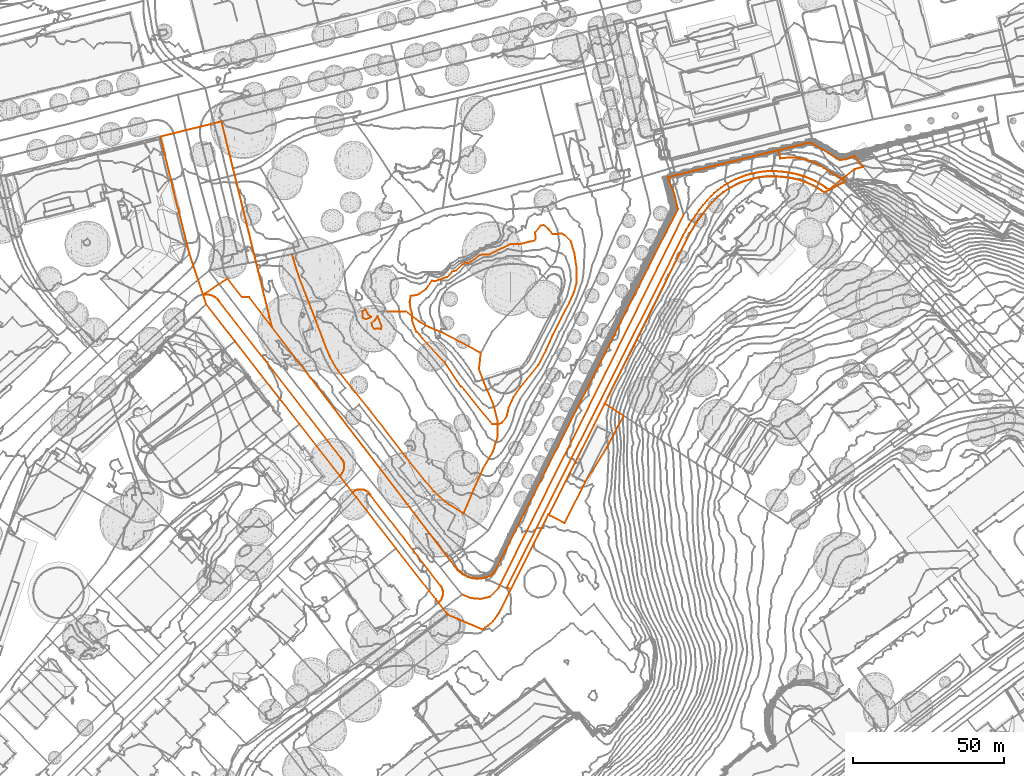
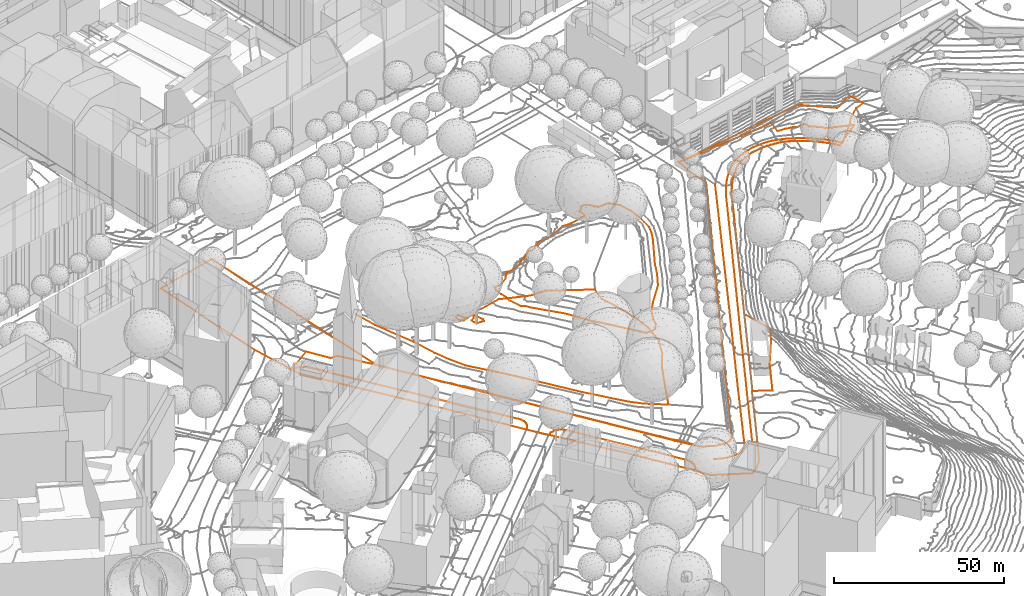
# Not in any storey, part 139 of 494: 11 proxies.
"""IFC2X3 model written with IfcOpenShell, lengths in metres."""

from ifc_helpers import new_model, entity, si_unit, frame, origin_with_axes, place, context, subcontext, project, element, save


model = new_model("IFC2X3")

# Units and contexts
model_context = context("Model", 3, precision=1e-05, world=origin_with_axes())
body_context = subcontext(model_context, "Body", "Model", "MODEL_VIEW")
ifc_project = project(units=[si_unit("AREAUNIT", "SQUARE_METRE"), si_unit("LENGTHUNIT", "METRE")], contexts=[model_context])

# Proxies
proxy_1_placement = place(None, frame((243.7057320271, 174.2087378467, 535.36), z_axis=(0.0, 0.0, 1.0), x_axis=(1.0, 0.0, 0.0)))
element("IfcBuildingElementProxy", 1, at=proxy_1_placement, Name="Road 50", ObjectType="NOTDEFINED", context=body_context, shape_type="GeometricCurveSet", body=[
    entity("IfcGeometricCurveSet", [entity("IfcPolyline", [entity("IfcCartesianPoint", [0.0, 0.0, 0.0]), entity("IfcCartesianPoint", [2.7899999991, -1.1749999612, 0.031]), entity("IfcCartesianPoint", [6.0209999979, -1.4689999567, -0.15]), entity("IfcCartesianPoint", [9.2509999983, -0.7339999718, -0.257]), entity("IfcCartesianPoint", [12.0409999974, 2.2019999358, -0.389]), entity("IfcCartesianPoint", [26.5779999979, 31.4249990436, -2.053]), entity("IfcCartesianPoint", [47.5769999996, 73.5679977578, -2.814]), entity("IfcCartesianPoint", [73.4219999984, 125.8449961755, -3.418])])]),
])
proxy_2_placement = place(None, frame((236.9517320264, 261.1407351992, 545.486), z_axis=(0.0, 0.0, 1.0), x_axis=(1.0, 0.0, 0.0)))
element("IfcBuildingElementProxy", 2, at=proxy_2_placement, Name="Road 84", ObjectType="NOTDEFINED", context=body_context, shape_type="GeometricCurveSet", body=[
    entity("IfcGeometricCurveSet", [entity("IfcPolyline", [entity("IfcCartesianPoint", [12.9210000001, -6.9019997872, 0.096]), entity("IfcCartesianPoint", [0.0, 0.0, 0.0])])]),
])
proxy_3_placement = place(None, frame((187.3177320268, 286.9847344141, 538.828), z_axis=(0.0, 0.0, 1.0), x_axis=(1.0, 0.0, 0.0)))
element("IfcBuildingElementProxy", 3, at=proxy_3_placement, Name="Road 99", ObjectType="NOTDEFINED", context=body_context, shape_type="GeometricCurveSet", body=[
    entity("IfcGeometricCurveSet", [entity("IfcPolyline", [entity("IfcCartesianPoint", [0.0, 0.0, 0.0]), entity("IfcCartesianPoint", [2.3499999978, -7.6359997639, -0.15]), entity("IfcCartesianPoint", [7.6359999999, -21.1449993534, 0.169]), entity("IfcCartesianPoint", [10.425999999, -28.6349991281, -0.223]), entity("IfcCartesianPoint", [12.4809999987, -33.7739989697, -0.136]), entity("IfcCartesianPoint", [15.2709999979, -38.6199988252, -0.385]), entity("IfcCartesianPoint", [25.4039999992, -51.1009984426, -0.277]), entity("IfcCartesianPoint", [38.0329999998, -67.5479979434, -0.38]), entity("IfcCartesianPoint", [47.1380000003, -78.7089976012, -0.171]), entity("IfcCartesianPoint", [50.5139999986, -81.9389975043, -0.158]), entity("IfcCartesianPoint", [56.8289999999, -85.903997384, -0.326])])]),
])
proxy_4_placement = place(None, frame((244.1467320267, 201.0807370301, 538.502), z_axis=(0.0, 0.0, 1.0), x_axis=(1.0, 0.0, 0.0)))
element("IfcBuildingElementProxy", 4, at=proxy_4_placement, Name="Road 104", ObjectType="NOTDEFINED", context=body_context, shape_type="GeometricCurveSet", body=[
    entity("IfcGeometricCurveSet", [entity("IfcPolyline", [entity("IfcCartesianPoint", [0.0, 0.0, 0.0]), entity("IfcCartesianPoint", [3.3770000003, 7.9299997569, 0.983]), entity("IfcCartesianPoint", [6.4609999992, 14.8309995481, 1.684]), entity("IfcCartesianPoint", [9.6909999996, 20.4109993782, 2.629]), entity("IfcCartesianPoint", [11.305999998, 25.2579992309, 3.658]), entity("IfcCartesianPoint", [11.305999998, 30.8379990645, 4.559]), entity("IfcCartesianPoint", [9.8389999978, 36.4179988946, 5.583]), entity("IfcCartesianPoint", [6.9010000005, 43.1729986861, 6.843]), entity("IfcCartesianPoint", [5.1400000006, 47.8709985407, 7.022]), entity("IfcCartesianPoint", [5.7259999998, 53.1579983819, 7.08])])]),
])
proxy_5_placement = place(None, frame((219.3587320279, 268.0417349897, 541.019), z_axis=(0.0, 0.0, 1.0), x_axis=(1.0, 0.0, 0.0)))
element("IfcBuildingElementProxy", 5, at=proxy_5_placement, Name="Road 139", ObjectType="NOTDEFINED", context=body_context, shape_type="GeometricCurveSet", body=[
    entity("IfcGeometricCurveSet", [entity("IfcPolyline", [entity("IfcCartesianPoint", [17.5929999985, -6.9009997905, 4.467]), entity("IfcCartesianPoint", [13.3339999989, -5.2859998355, 3.229]), entity("IfcCartesianPoint", [10.1030000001, -3.3769998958, 2.621]), entity("IfcCartesianPoint", [5.6979999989, 5.6e-09, 1.386]), entity("IfcCartesianPoint", [0.0, 0.0, 0.0])])]),
])
proxy_6_placement = place(None, frame((157.8477320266, 273.5947160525, 537.2889121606), z_axis=(0.0, 0.0, 1.0), x_axis=(1.0, 0.0, 0.0)))
element("IfcBuildingElementProxy", 6, at=proxy_6_placement, Name="Roads Outline 91", ObjectType="NOTDEFINED", context=body_context, shape_type="GeometricCurveSet", body=[
    entity("IfcGeometricCurveSet", [entity("IfcPolyline", [entity("IfcCartesianPoint", [0.0, 0.0, 0.0]), entity("IfcCartesianPoint", [8.148, 5.3159999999, 0.4038729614]), entity("IfcCartesianPoint", [12.909, -0.7910000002, 0.1333250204]), entity("IfcCartesianPoint", [15.301, -0.8630000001, 0.105246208]), entity("IfcCartesianPoint", [22.8640000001, -10.7210000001, 0.165489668]), entity("IfcCartesianPoint", [80.6310000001, -86.3450000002, -1.4383581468]), entity("IfcCartesianPoint", [83.4080000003, -89.9810000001, -1.3573259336]), entity("IfcCartesianPoint", [83.4190000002, -89.9950000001, -1.3562381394]), entity("IfcCartesianPoint", [83.8190000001, -90.5190000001, -1.3418526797]), entity("IfcCartesianPoint", [84.2579999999, -91.0530000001, -1.3515721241]), entity("IfcCartesianPoint", [84.736, -91.5520000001, -1.3715548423]), entity("IfcCartesianPoint", [85.2510000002, -92.013, -1.6272176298]), entity("IfcCartesianPoint", [85.7990000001, -92.4340000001, -1.4826048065]), entity("IfcCartesianPoint", [86.3770000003, -92.8120000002, -1.5678391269]), entity("IfcCartesianPoint", [86.9709999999, -93.1400000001, -1.5147409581]), entity("IfcCartesianPoint", [87.5870000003, -93.4230000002, -1.4721215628]), entity("IfcCartesianPoint", [88.2220000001, -93.6600000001, -1.5433086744]), entity("IfcCartesianPoint", [88.8730000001, -93.8490000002, -1.6738948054]), entity("IfcCartesianPoint", [89.628, -94.0050000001, -1.73901347]), entity("IfcCartesianPoint", [90.3930000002, -94.0960000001, -1.7770938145]), entity("IfcCartesianPoint", [91.162, -94.1230000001, -1.8366152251]), entity("IfcCartesianPoint", [91.932, -94.0850000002, -1.9610073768]), entity("IfcCartesianPoint", [92.6950000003, -93.9820000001, -2.1313607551]), entity("IfcCartesianPoint", [93.4480000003, -93.8160000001, -2.183151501]), entity("IfcCartesianPoint", [94.1830000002, -93.5870000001, -2.1622160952]), entity("IfcCartesianPoint", [94.8970000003, -93.297, -2.2725958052]), entity("IfcCartesianPoint", [95.3560000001, -93.0490000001, -2.3959886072]), entity("IfcCartesianPoint", [95.7779999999, -92.7410000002, -2.363310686]), entity("IfcCartesianPoint", [96.1550000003, -92.3800000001, -2.3866608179]), entity("IfcCartesianPoint", [96.4790000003, -91.9710000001, -2.4617111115]), entity("IfcCartesianPoint", [96.7460000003, -91.5220000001, -2.4244699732]), entity("IfcCartesianPoint", [157.3689999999, 28.4129999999, -5.1769479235]), entity("IfcCartesianPoint", [155.8220000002, 34.541, -4.7274218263]), entity("IfcCartesianPoint", [153.9820000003, 38.879, -2.95701149]), entity("IfcCartesianPoint", [156.3820000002, 39.466, -3.413550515]), entity("IfcCartesianPoint", [156.594, 39.5179999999, -3.4012087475]), entity("IfcCartesianPoint", [156.9650000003, 39.6089999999, -3.289138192]), entity("IfcCartesianPoint", [201.1490000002, 50.419, -5.9382074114]), entity("IfcCartesianPoint", [211.088, 44.5189999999, -6.9297187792]), entity("IfcCartesianPoint", [215.9190000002, 45.8489999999, -5.0424050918]), entity("IfcCartesianPoint", [218.7600000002, 42.375, -6.5436915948]), entity("IfcCartesianPoint", [215.878, 41.5789999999, -6.8560490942]), entity("IfcCartesianPoint", [212.4650000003, 38.8839999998, -7.7477879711]), entity("IfcCartesianPoint", [212.0750000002, 38.5759999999, -9.1040752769]), entity("IfcCartesianPoint", [207.2620000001, 34.7749999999, -12.2190708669]), entity("IfcCartesianPoint", [206.5190000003, 35.318, -12.0206802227]), entity("IfcCartesianPoint", [206.0600000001, 35.6409999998, -11.9284616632]), entity("IfcCartesianPoint", [205.5970000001, 35.9589999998, -11.8387233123]), entity("IfcCartesianPoint", [205.1320000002, 36.2589999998, -11.7279476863]), entity("IfcCartesianPoint", [204.6600000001, 36.548, -11.6072089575]), entity("IfcCartesianPoint", [204.1910000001, 36.8269999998, -11.490377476]), entity("IfcCartesianPoint", [203.7180000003, 37.098, -11.3709098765]), entity("IfcCartesianPoint", [203.2260000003, 37.3659999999, -11.2642568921]), entity("IfcCartesianPoint", [202.73, 37.625, -11.160935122]), entity("IfcCartesianPoint", [201.736, 38.1169999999, -10.9567167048]), entity("IfcCartesianPoint", [201.2320000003, 38.3489999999, -10.8857278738]), entity("IfcCartesianPoint", [200.7230000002, 38.571, -10.7961560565]), entity("IfcCartesianPoint", [200.2239999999, 38.7849999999, -10.6910472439]), entity("IfcCartesianPoint", [199.7230000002, 38.9949999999, -10.5551075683]), entity("IfcCartesianPoint", [199.2050000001, 39.1819999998, -10.4303143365]), entity("IfcCartesianPoint", [198.6800000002, 39.3499999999, -10.3408406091]), entity("IfcCartesianPoint", [198.1359999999, 39.5109999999, -10.2317999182]), entity("IfcCartesianPoint", [197.5870000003, 39.6569999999, -10.0998848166]), entity("IfcCartesianPoint", [197.0449999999, 39.7959999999, -9.991000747]), entity("IfcCartesianPoint", [196.5020000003, 39.9279999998, -9.8864245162]), entity("IfcCartesianPoint", [195.966, 40.048, -9.7603404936]), entity("IfcCartesianPoint", [195.4280000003, 40.1609999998, -9.6362758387]), entity("IfcCartesianPoint", [194.8820000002, 40.2659999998, -9.5515651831]), entity("IfcCartesianPoint", [194.335, 40.3629999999, -9.4657458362]), entity("IfcCartesianPoint", [193.7930000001, 40.45, -9.3406629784]), entity("IfcCartesianPoint", [193.25, 40.5289999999, -9.21504573]), entity("IfcCartesianPoint", [192.6890000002, 40.6039999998, -9.1138668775]), entity("IfcCartesianPoint", [192.128, 40.6739999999, -9.0058559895]), entity("IfcCartesianPoint", [191.5750000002, 40.7379999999, -8.877668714]), entity("IfcCartesianPoint", [191.0210000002, 40.7989999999, -8.7802887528]), entity("IfcCartesianPoint", [189.6550000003, 40.8939999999, -8.5264815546]), entity("IfcCartesianPoint", [188.2860000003, 40.9169999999, -8.2740933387]), entity("IfcCartesianPoint", [186.9169999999, 40.868, -8.0514690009]), entity("IfcCartesianPoint", [185.7630000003, 40.77, -7.8672927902]), entity("IfcCartesianPoint", [184.6150000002, 40.6209999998, -7.682243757]), entity("IfcCartesianPoint", [183.4750000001, 40.4209999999, -7.5082255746]), entity("IfcCartesianPoint", [182.264, 40.1699999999, -7.3347248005]), entity("IfcCartesianPoint", [181.0630000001, 39.8699999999, -7.1942638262]), entity("IfcCartesianPoint", [179.8760000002, 39.5229999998, -7.0415997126]), entity("IfcCartesianPoint", [178.7030000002, 39.1279999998, -6.9024119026]), entity("IfcCartesianPoint", [177.4840000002, 38.6569999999, -6.7675063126]), entity("IfcCartesianPoint", [176.2850000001, 38.135, -6.6130487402]), entity("IfcCartesianPoint", [175.111, 37.561, -6.4811083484]), entity("IfcCartesianPoint", [173.9620000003, 36.9369999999, -6.3418349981]), entity("IfcCartesianPoint", [172.841, 36.2649999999, -6.2065142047]), entity("IfcCartesianPoint", [171.6380000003, 35.446, -6.0840896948]), entity("IfcCartesianPoint", [170.48, 34.5649999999, -5.9505597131]), entity("IfcCartesianPoint", [169.3700000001, 33.625, -5.8199288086]), entity("IfcCartesianPoint", [168.3100000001, 32.6279999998, -5.7730310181]), entity("IfcCartesianPoint", [166.946, 31.142, -5.6595345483]), entity("IfcCartesianPoint", [165.6370000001, 29.608, -5.5406422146]), entity("IfcCartesianPoint", [164.3840000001, 28.0279999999, -5.4394013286]), entity("IfcCartesianPoint", [163.1890000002, 26.4039999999, -5.360498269]), entity("IfcCartesianPoint", [162.0619999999, 24.7529999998, -5.2965165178]), entity("IfcCartesianPoint", [160.9950000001, 23.064, -5.2255580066]), entity("IfcCartesianPoint", [159.9880000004, 21.3369999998, -5.2141249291]), entity("IfcCartesianPoint", [159.0440000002, 19.5759999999, -5.2237002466]), entity("IfcCartesianPoint", [151.952, 5.368, -5.0008683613]), entity("IfcCartesianPoint", [128.6740000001, -41.1060000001, -4.4898715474]), entity("IfcCartesianPoint", [100.5930000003, -97.044, -2.295681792]), entity("IfcCartesianPoint", [101.9560000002, -97.7290000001, -2.3349103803]), entity("IfcCartesianPoint", [101.9500000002, -97.7420000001, -2.3345093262]), entity("IfcCartesianPoint", [98.577, -104.459, -2.2151161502]), entity("IfcCartesianPoint", [98.0440000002, -105.442, -2.214575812]), entity("IfcCartesianPoint", [97.443, -106.385, -2.2216266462]), entity("IfcCartesianPoint", [96.7779999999, -107.2850000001, -2.2369471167]), entity("IfcCartesianPoint", [96.051, -108.135, -2.2471795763]), entity("IfcCartesianPoint", [95.267, -108.932, -2.2490572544]), entity("IfcCartesianPoint", [94.429, -109.6730000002, -2.2582030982]), entity("IfcCartesianPoint", [93.5410000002, -110.3530000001, -2.3028720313]), entity("IfcCartesianPoint", [92.608, -110.9700000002, -2.3259620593]), entity("IfcCartesianPoint", [84.4390000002, -107.5220000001, -2.0189870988]), entity("IfcCartesianPoint", [81.21, -106.1580000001, -1.8925801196]), entity("IfcCartesianPoint", [81.0040000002, -105.8930000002, -1.8939608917]), entity("IfcCartesianPoint", [80.8800000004, -105.7340000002, -1.8946975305]), entity("IfcCartesianPoint", [80.8459999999, -105.6900000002, -1.8948887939]), entity("IfcCartesianPoint", [78.0390000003, -102.0870000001, -1.8082024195]), entity("IfcCartesianPoint", [78.4280000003, -101.723, -1.8430753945]), entity("IfcCartesianPoint", [78.767, -101.3120000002, -1.8005707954]), entity("IfcCartesianPoint", [79.0490000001, -100.861, -1.7639050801]), entity("IfcCartesianPoint", [79.2710000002, -100.3760000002, -1.7395167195]), entity("IfcCartesianPoint", [79.4270000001, -99.8670000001, -1.7129537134]), entity("IfcCartesianPoint", [79.5160000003, -99.3420000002, -1.6967473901]), entity("IfcCartesianPoint", [79.5360000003, -98.8100000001, -1.6798796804]), entity("IfcCartesianPoint", [79.4909999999, -98.3120000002, -1.6631778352]), entity("IfcCartesianPoint", [79.3859999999, -97.8220000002, -1.6469565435]), entity("IfcCartesianPoint", [79.2220000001, -97.3490000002, -1.6228756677]), entity("IfcCartesianPoint", [79.0010000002, -96.9000000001, -1.5906908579]), entity("IfcCartesianPoint", [78.7280000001, -96.4810000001, -1.5633093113]), entity("IfcCartesianPoint", [74.4650000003, -90.976, -1.3247004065]), entity("IfcCartesianPoint", [55.5970000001, -66.5310000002, -0.9893423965]), entity("IfcCartesianPoint", [55.426, -66.3120000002, -0.9960254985]), entity("IfcCartesianPoint", [55.2480000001, -66.0970000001, -1.0065440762]), entity("IfcCartesianPoint", [55.0590000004, -65.8810000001, -1.0069266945]), entity("IfcCartesianPoint", [54.8640000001, -65.6710000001, -0.993387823]), entity("IfcCartesianPoint", [54.4870000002, -65.3260000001, -0.9766240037]), entity("IfcCartesianPoint", [54.0649999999, -65.0360000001, -0.9841327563]), entity("IfcCartesianPoint", [53.608, -64.807, -1.0086776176]), entity("IfcCartesianPoint", [53.1240000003, -64.6430000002, -1.023374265]), entity("IfcCartesianPoint", [52.622, -64.5480000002, -1.0313060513]), entity("IfcCartesianPoint", [52.111, -64.5220000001, -1.0471797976]), entity("IfcCartesianPoint", [51.6490000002, -64.5590000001, -1.069088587]), entity("IfcCartesianPoint", [51.196, -64.6540000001, -1.0944155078]), entity("IfcCartesianPoint", [50.7579999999, -64.804, -1.130575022]), entity("IfcCartesianPoint", [50.3420000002, -65.0080000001, -1.1674729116]), entity("IfcCartesianPoint", [49.9550000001, -65.263, -1.1703956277]), entity("IfcCartesianPoint", [49.6030000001, -65.564, -1.1531045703]), entity("IfcCartesianPoint", [45.301, -59.9770000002, -1.0201011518]), entity("IfcCartesianPoint", [45.71, -59.5960000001, -1.0132552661]), entity("IfcCartesianPoint", [46.0630000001, -59.1610000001, -1.0156104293]), entity("IfcCartesianPoint", [46.3510000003, -58.682, -1.012091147]), entity("IfcCartesianPoint", [46.5700000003, -58.1670000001, -0.9851291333]), entity("IfcCartesianPoint", [46.7150000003, -57.6270000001, -0.9465514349]), entity("IfcCartesianPoint", [46.7830000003, -57.0720000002, -0.8992290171]), entity("IfcCartesianPoint", [46.7760000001, -56.547, -0.8777544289]), entity("IfcCartesianPoint", [46.7010000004, -56.0280000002, -0.8706746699]), entity("IfcCartesianPoint", [46.5580000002, -55.523, -0.8615934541]), entity("IfcCartesianPoint", [46.3510000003, -55.0410000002, -0.83738404]), entity("IfcCartesianPoint", [46.0819999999, -54.591, -0.8073865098]), entity("IfcCartesianPoint", [45.7570000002, -54.179, -0.8008467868]), entity("IfcCartesianPoint", [5.3200000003, -2.0990000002, 0.0194575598]), entity("IfcCartesianPoint", [4.9280000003, -1.6460000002, 0.0378420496]), entity("IfcCartesianPoint", [4.4900000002, -1.2380000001, 0.0508862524]), entity("IfcCartesianPoint", [4.0109999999, -0.878, 0.0582603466]), entity("IfcCartesianPoint", [3.4960000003, -0.5720000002, 0.0675300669]), entity("IfcCartesianPoint", [2.952, -0.3220000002, 0.0678404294]), entity("IfcCartesianPoint", [2.3840000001, -0.132, 0.0669975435]), entity("IfcCartesianPoint", [1.7990000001, -0.0040000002, 0.0449752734]), entity("IfcCartesianPoint", [1.2039999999, 0.0619999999, 0.0208984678]), entity("IfcCartesianPoint", [0.6000000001, 0.064, 0.0158339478]), entity("IfcCartesianPoint", [0.0, 0.0, 0.0])])]),
])
proxy_7_placement = place(None, frame((272.4007320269, 200.5897160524, 533.8226584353), z_axis=(0.0, 0.0, 1.0), x_axis=(1.0, 0.0, 0.0)))
element("IfcBuildingElementProxy", 7, at=proxy_7_placement, Name="Cadastre 34", ObjectType="NOTDEFINED", context=body_context, shape_type="GeometricCurveSet", body=[
    entity("IfcGeometricCurveSet", [entity("IfcPolyline", [entity("IfcCartesianPoint", [0.0, 0.0, 0.0]), entity("IfcCartesianPoint", [18.534, 36.9000000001, -1.3642159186]), entity("IfcCartesianPoint", [24.7769999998, 32.811, -6.1606668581]), entity("IfcCartesianPoint", [19.3279999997, 22.54, -1.8983523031]), entity("IfcCartesianPoint", [12.0629999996, 10.818, -0.8714874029]), entity("IfcCartesianPoint", [5.2149999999, -2.709, -0.0085499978]), entity("IfcCartesianPoint", [0.0, 0.0, 0.0])])]),
])
proxy_8_placement = place(None, frame((143.7327320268, 325.9697160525, 539.6491309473), z_axis=(0.0, 0.0, 1.0), x_axis=(1.0, 0.0, 0.0)))
element("IfcBuildingElementProxy", 8, at=proxy_8_placement, Name="Cadastre 39", ObjectType="NOTDEFINED", context=body_context, shape_type="GeometricCurveSet", body=[
    entity("IfcGeometricCurveSet", [entity("IfcPolyline", [entity("IfcCartesianPoint", [0.0, 0.0, 0.0]), entity("IfcCartesianPoint", [20.2560000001, 4.997, 0.350047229]), entity("IfcCartesianPoint", [36.9789999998, -63.0960000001, -2.1947291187]), entity("IfcCartesianPoint", [97.9339999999, -142.8940000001, -3.7020714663]), entity("IfcCartesianPoint", [98.4269999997, -143.4870000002, -3.7159265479]), entity("IfcCartesianPoint", [98.9669999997, -144.0360000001, -3.7779740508]), entity("IfcCartesianPoint", [99.5529999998, -144.5380000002, -3.9410088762]), entity("IfcCartesianPoint", [100.1779999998, -144.9890000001, -3.8509868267]), entity("IfcCartesianPoint", [100.8389999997, -145.385, -3.9177485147]), entity("IfcCartesianPoint", [101.531, -145.7250000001, -3.8393357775]), entity("IfcCartesianPoint", [102.2489999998, -146.0050000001, -3.8855646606]), entity("IfcCartesianPoint", [102.9879999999, -146.2240000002, -4.034113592]), entity("IfcCartesianPoint", [103.7429999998, -146.3800000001, -4.0992322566]), entity("IfcCartesianPoint", [104.5079999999, -146.4710000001, -4.1373126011]), entity("IfcCartesianPoint", [105.2769999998, -146.4980000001, -4.1968340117]), entity("IfcCartesianPoint", [106.0469999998, -146.4600000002, -4.3212261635]), entity("IfcCartesianPoint", [106.8100000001, -146.3570000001, -4.4915795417]), entity("IfcCartesianPoint", [107.5630000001, -146.1910000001, -4.5433702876]), entity("IfcCartesianPoint", [108.298, -145.9620000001, -4.5224348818]), entity("IfcCartesianPoint", [109.0120000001, -145.672, -4.6328145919]), entity("IfcCartesianPoint", [109.4709999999, -145.4240000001, -4.7562073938]), entity("IfcCartesianPoint", [109.8929999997, -145.1160000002, -4.7235294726]), entity("IfcCartesianPoint", [110.27, -144.7550000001, -4.7468796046]), entity("IfcCartesianPoint", [110.594, -144.3460000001, -4.8219298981]), entity("IfcCartesianPoint", [110.861, -143.8970000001, -4.7846887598]), entity("IfcCartesianPoint", [171.4839999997, -23.9620000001, -7.5371667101]), entity("IfcCartesianPoint", [169.9369999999, -17.834, -7.0876406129]), entity("IfcCartesianPoint", [168.0970000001, -13.496, -5.3172302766]), entity("IfcCartesianPoint", [170.7089999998, -12.8570000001, -5.7614275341]), entity("IfcCartesianPoint", [204.8279999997, -4.5090000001, -9.5553604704]), entity("IfcCartesianPoint", [205.375, -7.2690000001, -11.009672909]), entity("IfcCartesianPoint", [208.3059999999, -6.939, -11.3915467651]), entity("IfcCartesianPoint", [209.52, -6.9620000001, -11.5371085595]), entity("IfcCartesianPoint", [210.7309999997, -7.0580000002, -11.5688828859]), entity("IfcCartesianPoint", [211.9329999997, -7.2270000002, -11.9495878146]), entity("IfcCartesianPoint", [213.1239999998, -7.4680000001, -11.6417406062]), entity("IfcCartesianPoint", [214.2969999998, -7.7810000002, -11.2385465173]), entity("IfcCartesianPoint", [215.4529999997, -8.165, -12.351419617]), entity("IfcCartesianPoint", [216.5839999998, -8.6190000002, -12.465499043]), entity("IfcCartesianPoint", [217.6859999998, -9.1400000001, -12.6701778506]), entity("IfcCartesianPoint", [218.7539999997, -9.7270000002, -12.8038052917]), entity("IfcCartesianPoint", [219.784, -10.378, -13.136258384]), entity("IfcCartesianPoint", [226.9729999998, -14.888, -11.8078573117]), entity("IfcCartesianPoint", [219.8569999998, -18.5290000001, -14.380319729]), entity("IfcCartesianPoint", [217.7739999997, -17.148, -13.8660399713]), entity("IfcCartesianPoint", [216.0559999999, -16.2050000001, -13.462031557]), entity("IfcCartesianPoint", [213.7930000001, -15.1540000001, -12.9439365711]), entity("IfcCartesianPoint", [211.102, -14.2690000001, -12.3503886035]), entity("IfcCartesianPoint", [208.9410000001, -13.7820000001, -11.9710012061]), entity("IfcCartesianPoint", [206.4669999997, -13.4700000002, -11.2944391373]), entity("IfcCartesianPoint", [203.9109999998, -13.223, -10.7493884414]), entity("IfcCartesianPoint", [200.9899999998, -13.2290000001, -10.4302701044]), entity("IfcCartesianPoint", [198.1569999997, -13.5720000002, -10.0177529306]), entity("IfcCartesianPoint", [195.6829999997, -14.138, -9.6789811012]), entity("IfcCartesianPoint", [192.5619999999, -15.1470000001, -9.334539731]), entity("IfcCartesianPoint", [190.9469999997, -15.8930000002, -9.0030493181]), entity("IfcCartesianPoint", [188.6349999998, -17.0990000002, -8.7294757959]), entity("IfcCartesianPoint", [186.523, -18.4370000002, -8.4932390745]), entity("IfcCartesianPoint", [184.548, -20.0110000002, -8.2380538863]), entity("IfcCartesianPoint", [182.8100000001, -21.8020000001, -8.0971769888]), entity("IfcCartesianPoint", [181.1769999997, -23.703, -7.9423175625]), entity("IfcCartesianPoint", [179.6359999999, -25.676, -7.5637179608]), entity("IfcCartesianPoint", [178.1919999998, -27.7170000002, -7.5078540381]), entity("IfcCartesianPoint", [176.841, -29.801, -7.4464929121]), entity("IfcCartesianPoint", [175.4839999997, -32.0460000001, -7.4870705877]), entity("IfcCartesianPoint", [174.412, -34.125, -7.4100428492]), entity("IfcCartesianPoint", [157.8640000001, -67.223, -7.4821417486]), entity("IfcCartesianPoint", [147.202, -88.48, -7.1906884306]), entity("IfcCartesianPoint", [128.6680000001, -125.3800000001, -5.826472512]), entity("IfcCartesianPoint", [128.523, -125.304, -5.8138533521]), entity("IfcCartesianPoint", [112.6919999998, -156.834, -4.5753349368]), entity("IfcCartesianPoint", [112.159, -157.817, -4.5747945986]), entity("IfcCartesianPoint", [111.5579999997, -158.76, -4.5818454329]), entity("IfcCartesianPoint", [110.8929999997, -159.6600000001, -4.5971659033]), entity("IfcCartesianPoint", [110.1659999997, -160.51, -4.607398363]), entity("IfcCartesianPoint", [109.3819999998, -161.307, -4.609276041]), entity("IfcCartesianPoint", [108.5439999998, -162.0480000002, -4.6184218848]), entity("IfcCartesianPoint", [107.656, -162.7280000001, -4.6630908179]), entity("IfcCartesianPoint", [106.7229999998, -163.3450000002, -4.6861808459]), entity("IfcCartesianPoint", [95.3249999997, -158.5330000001, -4.2527989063]), entity("IfcCartesianPoint", [91.2749999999, -153.3330000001, -3.8958283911]), entity("IfcCartesianPoint", [78.1259999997, -136.453, -3.3898194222]), entity("IfcCartesianPoint", [64.946, -119.5330000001, -3.3785563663]), entity("IfcCartesianPoint", [59.4159999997, -112.3520000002, -3.3803199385]), entity("IfcCartesianPoint", [46.1459999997, -95.3120000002, -2.7918252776]), entity("IfcCartesianPoint", [15.1659999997, -55.5210000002, -2.3072775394]), entity("IfcCartesianPoint", [9.5970000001, -38.848, -1.8836176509]), entity("IfcCartesianPoint", [0.0, 0.0, 0.0])])]),
])
proxy_9_placement = place(None, frame((210.6777320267, 266.0003951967, 541.0), z_axis=(0.0, 0.0, 1.0), x_axis=(1.0, 0.0, 0.0)))
element("IfcBuildingElementProxy", 9, at=proxy_9_placement, Name="Contour Line 541.0 m", ObjectType="NOTDEFINED", context=body_context, shape_type="GeometricCurveSet", body=[
    entity("IfcGeometricCurveSet", [entity("IfcPolyline", [entity("IfcCartesianPoint", [2.9326315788, 0.1703208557, 0.0]), entity("IfcCartesianPoint", [1.0, -0.5670159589, 0.0]), entity("IfcCartesianPoint", [0.0, 0.0, 0.0]), entity("IfcCartesianPoint", [0.0596590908, 2.1703208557, 0.0]), entity("IfcCartesianPoint", [1.0, 2.7303885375, 0.0]), entity("IfcCartesianPoint", [2.0, 0.745645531, 0.0]), entity("IfcCartesianPoint", [2.9326315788, 0.1703208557, 0.0])])]),
])
proxy_10_placement = place(None, frame((213.7560808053, 264.1707160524, 541.0), z_axis=(0.0, 0.0, 1.0), x_axis=(1.0, 0.0, 0.0)))
element("IfcBuildingElementProxy", 10, at=proxy_10_placement, Name="Contour Line 541.0 m", ObjectType="NOTDEFINED", context=body_context, shape_type="GeometricCurveSet", body=[
    entity("IfcGeometricCurveSet", [entity("IfcPolyline", [entity("IfcCartesianPoint", [3.0229685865, -2.0, 0.0]), entity("IfcCartesianPoint", [1.9216512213, -1.7888996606, 0.0]), entity("IfcCartesianPoint", [0.9216512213, -1.9520057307, 0.0]), entity("IfcCartesianPoint", [0.1781547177, -1.0, 0.0]), entity("IfcCartesianPoint", [0.0, 0.0, 0.0]), entity("IfcCartesianPoint", [1.1418893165, 1.0, 0.0]), entity("IfcCartesianPoint", [1.9216512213, 2.3561643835, 0.0]), entity("IfcCartesianPoint", [3.2892163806, -1.0, 0.0]), entity("IfcCartesianPoint", [3.0229685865, -2.0, 0.0])])]),
])
proxy_11_placement = place(None, frame((226.3702149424, 271.1707160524, 543.0), z_axis=(0.0, 0.0, 1.0), x_axis=(1.0, 0.0, 0.0)))
element("IfcBuildingElementProxy", 11, at=proxy_11_placement, Name="Contour Line 543.0 m", ObjectType="NOTDEFINED", context=body_context, shape_type="GeometricCurveSet", body=[
    entity("IfcGeometricCurveSet", [entity("IfcPolyline", [entity("IfcCartesianPoint", [30.5307551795, -40.0, 0.0]), entity("IfcCartesianPoint", [29.3075170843, -40.5652325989, 0.0]), entity("IfcCartesianPoint", [27.3075170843, -40.5415463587, 0.0]), entity("IfcCartesianPoint", [18.0361126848, -29.0, 0.0]), entity("IfcCartesianPoint", [16.9575830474, -28.0, 0.0]), entity("IfcCartesianPoint", [11.5341394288, -20.0, 0.0]), entity("IfcCartesianPoint", [4.3075170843, -12.2211538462, 0.0]), entity("IfcCartesianPoint", [3.3075170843, -10.7924296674, 0.0]), entity("IfcCartesianPoint", [2.1664520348, -10.0, 0.0]), entity("IfcCartesianPoint", [0.7512547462, -6.0, 0.0]), entity("IfcCartesianPoint", [0.7971342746, -4.0, 0.0]), entity("IfcCartesianPoint", [0.2126423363, -2.0, 0.0]), entity("IfcCartesianPoint", [0.0, 0.0, 0.0]), entity("IfcCartesianPoint", [0.2930052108, 2.0, 0.0]), entity("IfcCartesianPoint", [2.3075170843, 2.3013736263, 0.0]), entity("IfcCartesianPoint", [3.3075170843, 2.79125377, 0.0]), entity("IfcCartesianPoint", [5.3075170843, 4.2593806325, 0.0]), entity("IfcCartesianPoint", [7.3075170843, 7.0355537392, 0.0]), entity("IfcCartesianPoint", [8.3075170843, 6.8532987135, 0.0]), entity("IfcCartesianPoint", [12.3075170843, 8.2834523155, 0.0]), entity("IfcCartesianPoint", [13.2443365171, 9.0, 0.0]), entity("IfcCartesianPoint", [13.9354764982, 10.0, 0.0]), entity("IfcCartesianPoint", [15.3075170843, 10.444192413, 0.0]), entity("IfcCartesianPoint", [17.3075170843, 12.331771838, 0.0]), entity("IfcCartesianPoint", [18.3075170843, 12.9648303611, 0.0]), entity("IfcCartesianPoint", [19.3075170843, 12.907708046, 0.0]), entity("IfcCartesianPoint", [20.3075170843, 13.4096725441, 0.0]), entity("IfcCartesianPoint", [23.3075170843, 15.5871833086, 0.0]), entity("IfcCartesianPoint", [26.3075170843, 15.7514216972, 0.0]), entity("IfcCartesianPoint", [33.3075170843, 19.2078673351, 0.0]), entity("IfcCartesianPoint", [36.3075170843, 19.1354466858, 0.0]), entity("IfcCartesianPoint", [41.3075170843, 20.3414756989, 0.0]), entity("IfcCartesianPoint", [41.732651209, 21.0, 0.0]), entity("IfcCartesianPoint", [41.5261166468, 23.0, 0.0]), entity("IfcCartesianPoint", [43.3075170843, 25.2661483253, 0.0]), entity("IfcCartesianPoint", [44.3075170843, 25.4256854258, 0.0]), entity("IfcCartesianPoint", [46.1404147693, 24.0, 0.0]), entity("IfcCartesianPoint", [47.3075170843, 22.486204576, 0.0]), entity("IfcCartesianPoint", [50.3075170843, 22.6094154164, 0.0]), entity("IfcCartesianPoint", [51.3075170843, 22.0892018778, 0.0]), entity("IfcCartesianPoint", [53.4120247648, 20.0, 0.0]), entity("IfcCartesianPoint", [54.5619966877, 16.0, 0.0]), entity("IfcCartesianPoint", [55.3001916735, 11.0, 0.0]), entity("IfcCartesianPoint", [55.1802488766, 6.0, 0.0]), entity("IfcCartesianPoint", [54.2818159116, 3.0, 0.0]), entity("IfcCartesianPoint", [52.9404432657, 0.0, 0.0]), entity("IfcCartesianPoint", [47.3075170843, -10.9591920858, 0.0]), entity("IfcCartesianPoint", [45.1511787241, -16.0, 0.0]), entity("IfcCartesianPoint", [42.5569411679, -21.0, 0.0]), entity("IfcCartesianPoint", [36.7775729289, -28.0, 0.0]), entity("IfcCartesianPoint", [34.3075170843, -31.5262832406, 0.0]), entity("IfcCartesianPoint", [32.7873100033, -35.0, 0.0]), entity("IfcCartesianPoint", [32.0788387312, -38.0, 0.0]), entity("IfcCartesianPoint", [30.5307551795, -40.0, 0.0])])]),
])

save(model, "model.ifc")
